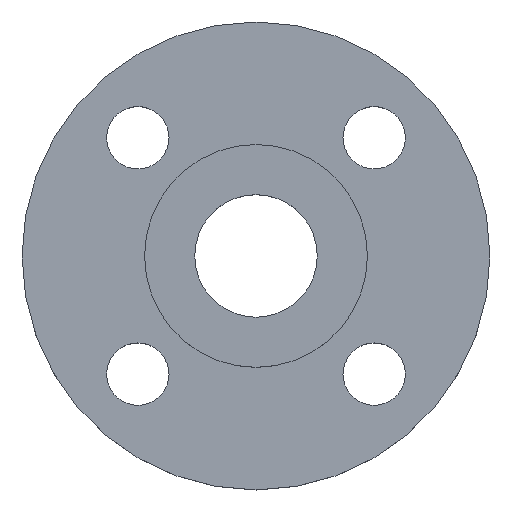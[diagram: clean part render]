
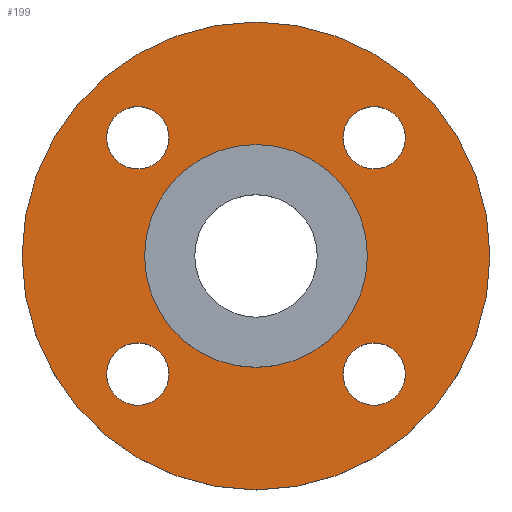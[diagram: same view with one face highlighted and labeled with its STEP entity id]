
A CAD part, top view. The second image highlights one B-rep face of the part: STEP entity #199.
In plain terms, the highlighted planar face has unit normal (0, 0, 1).
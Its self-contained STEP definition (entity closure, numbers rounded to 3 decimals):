
#9 = DIRECTION ( 'NONE',  ( 1., 0., 0. ) ) ;
#11 = DIRECTION ( 'NONE',  ( 0., 0., -1. ) ) ;
#12 = CARTESIAN_POINT ( 'NONE',  ( -26.517, -26.517, -4.5 ) ) ;
#17 = AXIS2_PLACEMENT_3D ( 'NONE', #257, #268, #241 ) ;
#22 = CARTESIAN_POINT ( 'NONE',  ( 33.517, 26.517, -4.5 ) ) ;
#33 = CARTESIAN_POINT ( 'NONE',  ( 19.517, -26.517, -4.5 ) ) ;
#38 = VERTEX_POINT ( 'NONE', #71 ) ;
#41 = CIRCLE ( 'NONE', #231, 7. ) ;
#43 = CIRCLE ( 'NONE', #282, 7. ) ;
#44 = EDGE_LOOP ( 'NONE', ( #110, #112 ) ) ;
#49 = CARTESIAN_POINT ( 'NONE',  ( 52.5, 0., -4.5 ) ) ;
#51 = CARTESIAN_POINT ( 'NONE',  ( 26.517, 26.517, -4.5 ) ) ;
#52 = CARTESIAN_POINT ( 'NONE',  ( 19.517, 26.517, -4.5 ) ) ;
#54 = DIRECTION ( 'NONE',  ( 1., 0., 0. ) ) ;
#55 = DIRECTION ( 'NONE',  ( 0., 0., -1. ) ) ;
#58 = CARTESIAN_POINT ( 'NONE',  ( 25., 0., -4.5 ) ) ;
#61 = EDGE_CURVE ( 'NONE', #181, #391, #157, .T. ) ;
#71 = CARTESIAN_POINT ( 'NONE',  ( 33.517, -26.517, -4.5 ) ) ;
#81 = CARTESIAN_POINT ( 'NONE',  ( -26.517, -26.517, -4.5 ) ) ;
#86 = EDGE_CURVE ( 'NONE', #402, #163, #332, .T. ) ;
#98 = ORIENTED_EDGE ( 'NONE', *, *, #568, .T. ) ;
#99 = ORIENTED_EDGE ( 'NONE', *, *, #251, .T. ) ;
#100 = ORIENTED_EDGE ( 'NONE', *, *, #61, .T. ) ;
#101 = ORIENTED_EDGE ( 'NONE', *, *, #298, .T. ) ;
#103 = ORIENTED_EDGE ( 'NONE', *, *, #471, .T. ) ;
#104 = ORIENTED_EDGE ( 'NONE', *, *, #543, .T. ) ;
#105 = ORIENTED_EDGE ( 'NONE', *, *, #410, .T. ) ;
#106 = ORIENTED_EDGE ( 'NONE', *, *, #170, .T. ) ;
#109 = ORIENTED_EDGE ( 'NONE', *, *, #515, .T. ) ;
#110 = ORIENTED_EDGE ( 'NONE', *, *, #427, .F. ) ;
#112 = ORIENTED_EDGE ( 'NONE', *, *, #86, .F. ) ;
#114 = DIRECTION ( 'NONE',  ( 0., 0., -1. ) ) ;
#117 = DIRECTION ( 'NONE',  ( 0., 0., -1. ) ) ;
#118 = CARTESIAN_POINT ( 'NONE',  ( 0., 0., -4.5 ) ) ;
#139 = ORIENTED_EDGE ( 'NONE', *, *, #581, .T. ) ;
#151 = VERTEX_POINT ( 'NONE', #577 ) ;
#154 = CIRCLE ( 'NONE', #280, 25. ) ;
#157 = CIRCLE ( 'NONE', #296, 7. ) ;
#160 = VERTEX_POINT ( 'NONE', #576 ) ;
#163 = VERTEX_POINT ( 'NONE', #49 ) ;
#167 = VERTEX_POINT ( 'NONE', #52 ) ;
#170 = EDGE_CURVE ( 'NONE', #286, #167, #338, .T. ) ;
#171 = VERTEX_POINT ( 'NONE', #58 ) ;
#178 = AXIS2_PLACEMENT_3D ( 'NONE', #452, #451, #450 ) ;
#180 = CARTESIAN_POINT ( 'NONE',  ( -19.517, -26.517, -4.5 ) ) ;
#181 = VERTEX_POINT ( 'NONE', #180 ) ;
#199 = ADVANCED_FACE ( 'NONE', ( #249, #248, #252, #247, #244, #243 ), #242, .T. ) ;
#204 = CIRCLE ( 'NONE', #210, 7. ) ;
#205 = AXIS2_PLACEMENT_3D ( 'NONE', #118, #117, #566 ) ;
#210 = AXIS2_PLACEMENT_3D ( 'NONE', #12, #11, #9 ) ;
#224 = AXIS2_PLACEMENT_3D ( 'NONE', #508, #507, #506 ) ;
#226 = CIRCLE ( 'NONE', #224, 52.5 ) ;
#227 = AXIS2_PLACEMENT_3D ( 'NONE', #230, #234, #279 ) ;
#228 = AXIS2_PLACEMENT_3D ( 'NONE', #517, #516, #514 ) ;
#230 = CARTESIAN_POINT ( 'NONE',  ( 26.517, -26.517, -4.5 ) ) ;
#231 = AXIS2_PLACEMENT_3D ( 'NONE', #375, #374, #373 ) ;
#233 = CIRCLE ( 'NONE', #228, 25. ) ;
#234 = DIRECTION ( 'NONE',  ( 0., 0., -1. ) ) ;
#237 = CIRCLE ( 'NONE', #227, 7. ) ;
#241 = DIRECTION ( 'NONE',  ( 1., 0., 0. ) ) ;
#242 = PLANE ( 'NONE',  #17 ) ;
#243 = FACE_OUTER_BOUND ( 'NONE', #44, .T. ) ;
#244 = FACE_BOUND ( 'NONE', #399, .T. ) ;
#247 = FACE_BOUND ( 'NONE', #404, .T. ) ;
#248 = FACE_BOUND ( 'NONE', #586, .T. ) ;
#249 = FACE_BOUND ( 'NONE', #422, .T. ) ;
#251 = EDGE_CURVE ( 'NONE', #260, #38, #237, .T. ) ;
#252 = FACE_BOUND ( 'NONE', #414, .T. ) ;
#257 = CARTESIAN_POINT ( 'NONE',  ( 25., 0., -4.5 ) ) ;
#259 = CIRCLE ( 'NONE', #480, 7. ) ;
#260 = VERTEX_POINT ( 'NONE', #33 ) ;
#268 = DIRECTION ( 'NONE',  ( 0., 0., 1. ) ) ;
#279 = DIRECTION ( 'NONE',  ( 1., 0., 0. ) ) ;
#280 = AXIS2_PLACEMENT_3D ( 'NONE', #455, #454, #453 ) ;
#282 = AXIS2_PLACEMENT_3D ( 'NONE', #363, #362, #360 ) ;
#286 = VERTEX_POINT ( 'NONE', #22 ) ;
#296 = AXIS2_PLACEMENT_3D ( 'NONE', #81, #114, #579 ) ;
#297 = AXIS2_PLACEMENT_3D ( 'NONE', #51, #55, #54 ) ;
#298 = EDGE_CURVE ( 'NONE', #391, #181, #204, .T. ) ;
#332 = CIRCLE ( 'NONE', #205, 52.5 ) ;
#338 = CIRCLE ( 'NONE', #297, 7. ) ;
#360 = DIRECTION ( 'NONE',  ( 1., 0., 0. ) ) ;
#362 = DIRECTION ( 'NONE',  ( 0., 0., -1. ) ) ;
#363 = CARTESIAN_POINT ( 'NONE',  ( 26.517, 26.517, -4.5 ) ) ;
#373 = DIRECTION ( 'NONE',  ( 1., 0., 0. ) ) ;
#374 = DIRECTION ( 'NONE',  ( 0., 0., -1. ) ) ;
#375 = CARTESIAN_POINT ( 'NONE',  ( 26.517, -26.517, -4.5 ) ) ;
#391 = VERTEX_POINT ( 'NONE', #532 ) ;
#399 = EDGE_LOOP ( 'NONE', ( #105, #109 ) ) ;
#402 = VERTEX_POINT ( 'NONE', #525 ) ;
#404 = EDGE_LOOP ( 'NONE', ( #106, #139 ) ) ;
#410 = EDGE_CURVE ( 'NONE', #160, #171, #233, .T. ) ;
#414 = EDGE_LOOP ( 'NONE', ( #103, #104 ) ) ;
#422 = EDGE_LOOP ( 'NONE', ( #98, #99 ) ) ;
#427 = EDGE_CURVE ( 'NONE', #163, #402, #226, .T. ) ;
#432 = VERTEX_POINT ( 'NONE', #496 ) ;
#438 = CIRCLE ( 'NONE', #178, 7. ) ;
#450 = DIRECTION ( 'NONE',  ( 1., 0., 0. ) ) ;
#451 = DIRECTION ( 'NONE',  ( 0., 0., -1. ) ) ;
#452 = CARTESIAN_POINT ( 'NONE',  ( -26.517, 26.517, -4.5 ) ) ;
#453 = DIRECTION ( 'NONE',  ( -1., 0., 0. ) ) ;
#454 = DIRECTION ( 'NONE',  ( 0., 0., -1. ) ) ;
#455 = CARTESIAN_POINT ( 'NONE',  ( 0., 0., -4.5 ) ) ;
#467 = DIRECTION ( 'NONE',  ( 1., 0., 0. ) ) ;
#468 = DIRECTION ( 'NONE',  ( 0., 0., -1. ) ) ;
#469 = CARTESIAN_POINT ( 'NONE',  ( -26.517, 26.517, -4.5 ) ) ;
#471 = EDGE_CURVE ( 'NONE', #151, #432, #259, .T. ) ;
#480 = AXIS2_PLACEMENT_3D ( 'NONE', #469, #468, #467 ) ;
#496 = CARTESIAN_POINT ( 'NONE',  ( -33.517, 26.517, -4.5 ) ) ;
#506 = DIRECTION ( 'NONE',  ( -1., 0., 0. ) ) ;
#507 = DIRECTION ( 'NONE',  ( 0., 0., -1. ) ) ;
#508 = CARTESIAN_POINT ( 'NONE',  ( 0., 0., -4.5 ) ) ;
#514 = DIRECTION ( 'NONE',  ( -1., 0., 0. ) ) ;
#515 = EDGE_CURVE ( 'NONE', #171, #160, #154, .T. ) ;
#516 = DIRECTION ( 'NONE',  ( 0., 0., -1. ) ) ;
#517 = CARTESIAN_POINT ( 'NONE',  ( 0., 0., -4.5 ) ) ;
#525 = CARTESIAN_POINT ( 'NONE',  ( -52.5, 0., -4.5 ) ) ;
#532 = CARTESIAN_POINT ( 'NONE',  ( -33.517, -26.517, -4.5 ) ) ;
#543 = EDGE_CURVE ( 'NONE', #432, #151, #438, .T. ) ;
#566 = DIRECTION ( 'NONE',  ( -1., 0., 0. ) ) ;
#568 = EDGE_CURVE ( 'NONE', #38, #260, #41, .T. ) ;
#576 = CARTESIAN_POINT ( 'NONE',  ( -25., 0., -4.5 ) ) ;
#577 = CARTESIAN_POINT ( 'NONE',  ( -19.517, 26.517, -4.5 ) ) ;
#579 = DIRECTION ( 'NONE',  ( 1., 0., 0. ) ) ;
#581 = EDGE_CURVE ( 'NONE', #167, #286, #43, .T. ) ;
#586 = EDGE_LOOP ( 'NONE', ( #100, #101 ) ) ;
